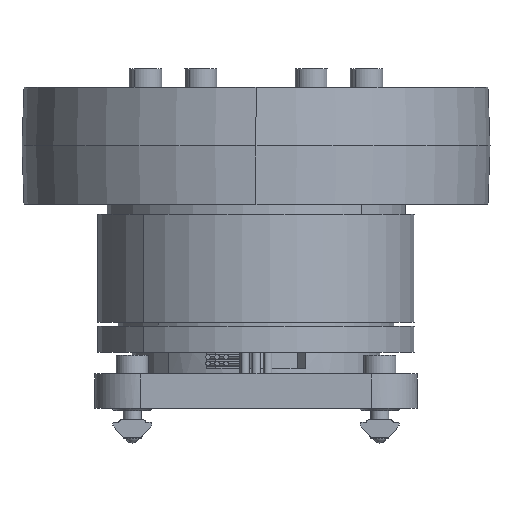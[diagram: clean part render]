
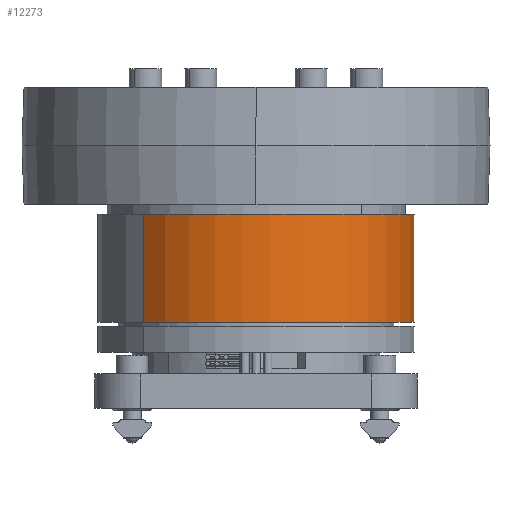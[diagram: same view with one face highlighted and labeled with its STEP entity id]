
A CAD part, front view. The second image highlights one B-rep face of the part: STEP entity #12273.
In plain terms, the highlighted cylindrical face has radius 34.5 mm (diameter 69 mm), a partial arc.
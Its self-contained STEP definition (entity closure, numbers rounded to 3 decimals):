
#130 = FACE_OUTER_BOUND ( 'NONE', #8029, .T. ) ;
#6490 = VERTEX_POINT ( 'NONE', #75691 ) ;
#6603 = CARTESIAN_POINT ( 'NONE',  ( 0., 23.5, 0. ) ) ;
#8029 = EDGE_LOOP ( 'NONE', ( #55706, #64085, #34207, #40289 ) ) ;
#10020 = AXIS2_PLACEMENT_3D ( 'NONE', #16595, #10573, #55898 ) ;
#10573 = DIRECTION ( 'NONE',  ( 0., 1., 0. ) ) ;
#10939 = CARTESIAN_POINT ( 'NONE',  ( 0., 23.5, -34.5 ) ) ;
#12143 = EDGE_CURVE ( 'NONE', #68423, #45797, #27920, .T. ) ;
#12273 = ADVANCED_FACE ( 'NONE', ( #130 ), #65751, .T. ) ;
#15829 = CARTESIAN_POINT ( 'NONE',  ( 0., 0., 34.5 ) ) ;
#16595 = CARTESIAN_POINT ( 'NONE',  ( 0., 0., 0. ) ) ;
#23224 = DIRECTION ( 'NONE',  ( 0., -1., 0. ) ) ;
#24766 = DIRECTION ( 'NONE',  ( 0., -1., 0. ) ) ;
#25001 = CARTESIAN_POINT ( 'NONE',  ( 0., 0., -34.5 ) ) ;
#26021 = DIRECTION ( 'NONE',  ( 0., 0., -1. ) ) ;
#27920 = CIRCLE ( 'NONE', #10020, 34.5 ) ;
#29719 = LINE ( 'NONE', #56054, #57810 ) ;
#34207 = ORIENTED_EDGE ( 'NONE', *, *, #12143, .T. ) ;
#36854 = DIRECTION ( 'NONE',  ( 0., 1., 0. ) ) ;
#37400 = VECTOR ( 'NONE', #76145, 1000. ) ;
#40289 = ORIENTED_EDGE ( 'NONE', *, *, #49576, .F. ) ;
#42888 = DIRECTION ( 'NONE',  ( 0., 0., -1. ) ) ;
#45797 = VERTEX_POINT ( 'NONE', #25001 ) ;
#48019 = AXIS2_PLACEMENT_3D ( 'NONE', #82593, #36854, #42888 ) ;
#49576 = EDGE_CURVE ( 'NONE', #54146, #45797, #84308, .T. ) ;
#54146 = VERTEX_POINT ( 'NONE', #82933 ) ;
#55706 = ORIENTED_EDGE ( 'NONE', *, *, #59994, .F. ) ;
#55898 = DIRECTION ( 'NONE',  ( -1., 0., 0. ) ) ;
#56054 = CARTESIAN_POINT ( 'NONE',  ( 0., 23.5, 34.5 ) ) ;
#57810 = VECTOR ( 'NONE', #23224, 1000. ) ;
#59994 = EDGE_CURVE ( 'NONE', #6490, #54146, #81056, .T. ) ;
#62395 = EDGE_CURVE ( 'NONE', #6490, #68423, #29719, .T. ) ;
#64085 = ORIENTED_EDGE ( 'NONE', *, *, #62395, .T. ) ;
#65751 = CYLINDRICAL_SURFACE ( 'NONE', #69296, 34.5 ) ;
#68423 = VERTEX_POINT ( 'NONE', #15829 ) ;
#69296 = AXIS2_PLACEMENT_3D ( 'NONE', #6603, #24766, #26021 ) ;
#75691 = CARTESIAN_POINT ( 'NONE',  ( 0., 23.5, 34.5 ) ) ;
#76145 = DIRECTION ( 'NONE',  ( 0., -1., 0. ) ) ;
#81056 = CIRCLE ( 'NONE', #48019, 34.5 ) ;
#82593 = CARTESIAN_POINT ( 'NONE',  ( 0., 23.5, 0. ) ) ;
#82933 = CARTESIAN_POINT ( 'NONE',  ( 0., 23.5, -34.5 ) ) ;
#84308 = LINE ( 'NONE', #10939, #37400 ) ;
